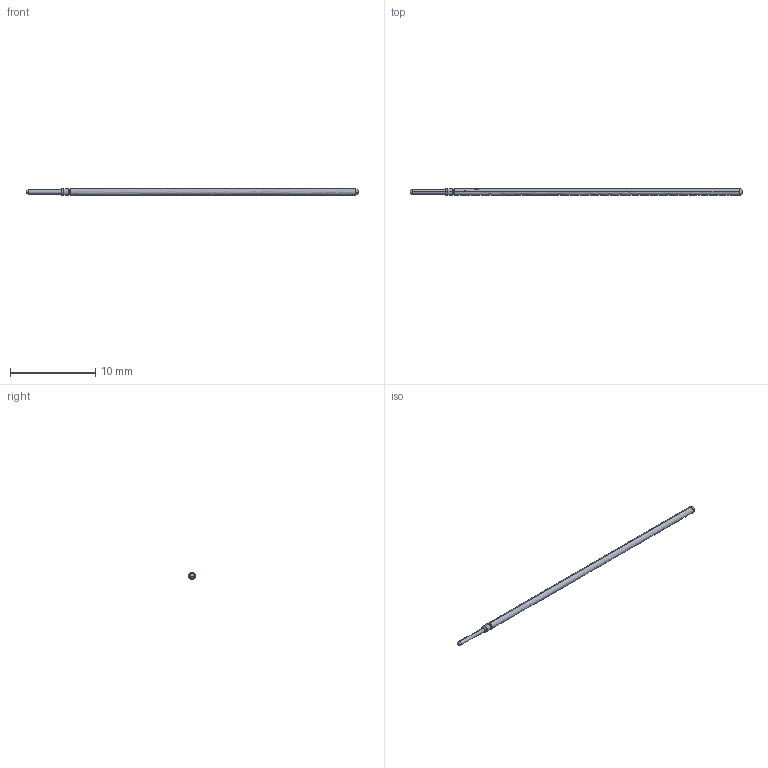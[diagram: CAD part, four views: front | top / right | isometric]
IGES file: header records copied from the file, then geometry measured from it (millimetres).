
Start section: SolidWorks IGES file using analytic representation for surfaces
Global section: file name: L:\probe solid model mockups\Solidworks models\POGO-72J RECD.IGS; native system: SolidWorks 2006 by SolidWorks Corporation; preprocessor: SolidWorks 2006 by SolidWorks Corporation; author: Ksnyder; date: 071211.135915; units: inch
Bounding box: 38.94 x 0.79 x 0.79 mm (x, y, z)
Surface area: 175.6 mm2
Topology: 1 solids, 1 shells, 20 faces, 46 edges, 25 vertices
Faces by surface type: revolution 18, plane 2
